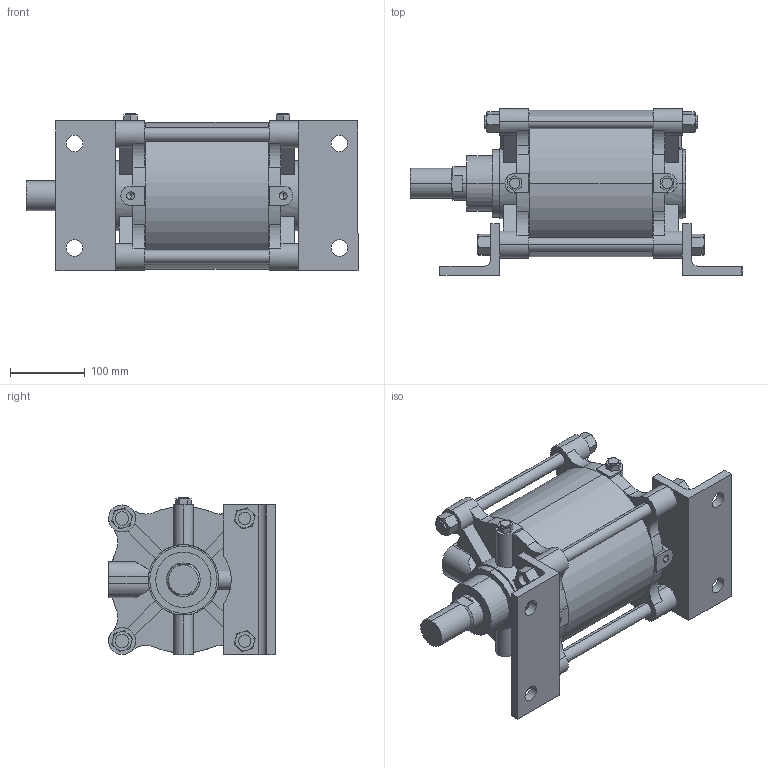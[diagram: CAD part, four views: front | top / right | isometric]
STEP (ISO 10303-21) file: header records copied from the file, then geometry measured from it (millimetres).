
FILE_DESCRIPTION (( 'STEP AP203' ), '1' );
FILE_NAME ('A##2-180#-100-L.STEP', '2016-03-31T06:58:41', ( '' ), ( '' ), 'SwSTEP 2.0', 'SolidWorks 2014', '' );
FILE_SCHEMA (( 'CONFIG_CONTROL_DESIGN' ));
Length unit declared in the file: millimetre
Products named in the file (7): A##2-180#-100-L; A180-A; A180-B; A180-L; A180-100
Assembly tree (17 placements, depth 2):
  A##2-180#-100-L
    A180-B
    A180-100
    A180-A
    (unnamed)  x8
    (unnamed)  x4
    A180-L  x2
Bounding box: 444 x 223 x 210 mm (x, y, z)
Volume: 8128030 mm3; surface area: 653550.5 mm2
Topology: 17 solids, 19 shells, 422 faces, 1068 edges, 684 vertices
Faces by surface type: plane 216, cylinder 144, torus 48, cone 14
Entity records: 10296 total; most frequent: CARTESIAN_POINT 2032, DIRECTION 1609, ORIENTED_EDGE 1470, EDGE_CURVE 735, AXIS2_PLACEMENT_3D 611, VERTEX_POINT 484, VECTOR 387, LINE 387
